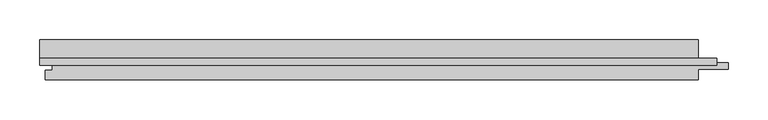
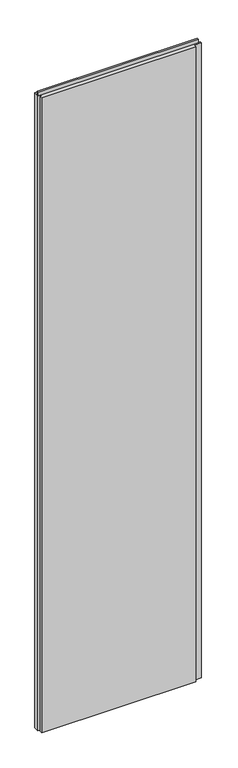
"""IFC4 building model written with IfcOpenShell, lengths in millimetres: plate geometry, Trimo_Qbiss Screen_Normal Panel-VERTICAL : HR - B."""

from ifc_helpers import new_model, si_unit, frame, origin, place, context, project, spatial, polyline, outline, extrude, source, transform, mapped, element, save


def plate_9cd253ac(model_context):
    return source(origin(), model_context, "Body", "SweptSolid", [
        extrude(outline(polyline([(403.0, 97.0), (403.0, 102.6), (424.0, 102.6), (424.0, 97.0), (403.0, 97.0)])), frame((0.0, 0.0, 12.5), z_axis=(0.0, 0.0, 1.0), x_axis=(1.0, 0.0, 0.0)), (0.0, 0.0, 1.0), 3575.0),
        extrude(outline(polyline([(-425.0, 93.9), (-425.0, 102.6), (425.0, 102.6), (425.0, 93.9), (-425.0, 93.9)])), frame((0.0, 0.0, 3590.5), z_axis=(0.0, 0.0, 1.0), x_axis=(1.0, 0.0, 0.0)), (0.0, 0.0, 1.0), 19.0),
        extrude(outline(polyline([(402.0, 97.0), (439.5, 97.0), (439.5, 89.0), (402.0, 89.0), (402.0, 76.0), (-418.0, 76.0), (-418.0, 88.0), (-409.5, 88.0), (-409.5, 98.0), (-425.0, 98.0), (-425.0, 126.0), (402.0, 126.0), (402.0, 97.0)])), frame((0.0, 0.0, 12.5), z_axis=(0.0, 0.0, 1.0), x_axis=(1.0, 0.0, 0.0)), (0.0, 0.0, 1.0), 3575.0),
    ])


if __name__ == "__main__":
    model = new_model("IFC4")
    model_context = context("Model", 3, world=origin())
    ifc_project = project(units=[si_unit("LENGTHUNIT", "METRE", prefix="MILLI")], contexts=[model_context])
    site = spatial("IfcSite", under=ifc_project)
    building = spatial("IfcBuilding", under=site)
    placement = place(None, origin())
    plate_shape = plate_9cd253ac(model_context)
    element("IfcPlate", 1, ObjectType="Trimo_Qbiss Screen_Normal Panel-VERTICAL : HR - B", at=placement, inside=building, context=model_context, shape_type="MappedRepresentation", body=[
        mapped(plate_shape, transform((0.0, 0.0, 0.0), x_axis=(1.0, 0.0, 0.0), y_axis=(0.0, 1.0, 0.0), z_axis=(0.0, 0.0, 1.0))),
    ])
    save(model, "model.ifc")
